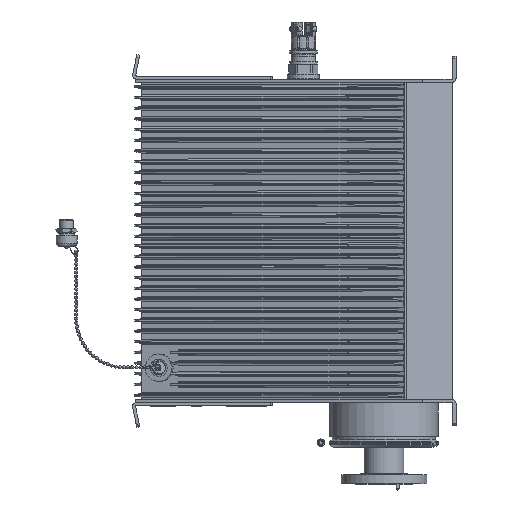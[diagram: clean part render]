
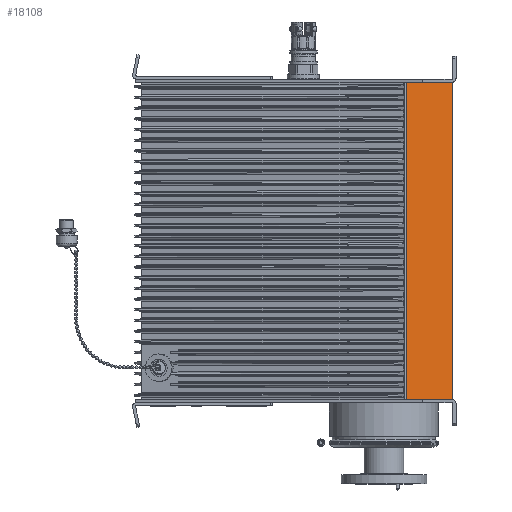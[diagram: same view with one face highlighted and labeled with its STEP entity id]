
A CAD part, top view. The second image highlights one B-rep face of the part: STEP entity #18108.
In plain terms, the highlighted planar face has unit normal (0.629, 0, 0.777).
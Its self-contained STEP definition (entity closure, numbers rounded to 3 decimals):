
#18108 = ADVANCED_FACE( '', ( #51918 ), #51919, .T. );
#51918 = FACE_OUTER_BOUND( '', #100196, .T. );
#51919 = PLANE( '', #100197 );
#100196 = EDGE_LOOP( '', ( #180887, #180888, #180889, #180890 ) );
#100197 = AXIS2_PLACEMENT_3D( '', #180891, #180892, #180893 );
#180887 = ORIENTED_EDGE( '', *, *, #252993, .T. );
#180888 = ORIENTED_EDGE( '', *, *, #252994, .T. );
#180889 = ORIENTED_EDGE( '', *, *, #252995, .T. );
#180890 = ORIENTED_EDGE( '', *, *, #252996, .T. );
#180891 = CARTESIAN_POINT( '', ( -3.763, 0., 97.461 ) );
#180892 = DIRECTION( '', ( 0.629, 0., 0.777 ) );
#180893 = DIRECTION( '', ( 0.777, 0., -0.629 ) );
#252993 = EDGE_CURVE( '', #269658, #269659, #269660, .T. );
#252994 = EDGE_CURVE( '', #269659, #269661, #269662, .T. );
#252995 = EDGE_CURVE( '', #269661, #269663, #269664, .T. );
#252996 = EDGE_CURVE( '', #269663, #269658, #269665, .T. );
#269658 = VERTEX_POINT( '', #293087 );
#269659 = VERTEX_POINT( '', #293088 );
#269660 = LINE( '', #293089, #293090 );
#269661 = VERTEX_POINT( '', #293091 );
#269662 = LINE( '', #293092, #293093 );
#269663 = VERTEX_POINT( '', #293094 );
#269664 = LINE( '', #293095, #293096 );
#269665 = LINE( '', #293097, #293098 );
#293087 = CARTESIAN_POINT( '', ( -3.905, 330.2, 97.576 ) );
#293088 = CARTESIAN_POINT( '', ( -51.727, 330.2, 136.302 ) );
#293089 = CARTESIAN_POINT( '', ( -3.619, 330.2, 97.345 ) );
#293090 = VECTOR( '', #329263, 1000. );
#293091 = CARTESIAN_POINT( '', ( -51.727, 0., 136.302 ) );
#293092 = CARTESIAN_POINT( '', ( -51.727, 330.2, 136.302 ) );
#293093 = VECTOR( '', #329264, 1000. );
#293094 = CARTESIAN_POINT( '', ( -3.905, 0., 97.576 ) );
#293095 = CARTESIAN_POINT( '', ( -3.619, 0., 97.345 ) );
#293096 = VECTOR( '', #329265, 1000. );
#293097 = CARTESIAN_POINT( '', ( -3.905, 0., 97.576 ) );
#293098 = VECTOR( '', #329266, 1000. );
#329263 = DIRECTION( '', ( -0.777, 0., 0.629 ) );
#329264 = DIRECTION( '', ( 0., -1., 0. ) );
#329265 = DIRECTION( '', ( 0.777, 0., -0.629 ) );
#329266 = DIRECTION( '', ( 0., 1., 0. ) );
